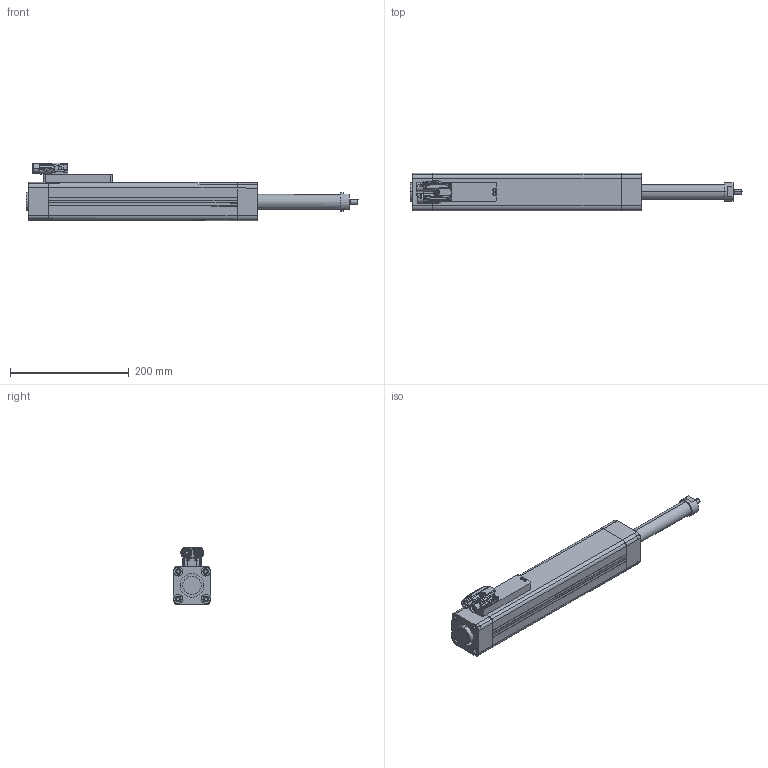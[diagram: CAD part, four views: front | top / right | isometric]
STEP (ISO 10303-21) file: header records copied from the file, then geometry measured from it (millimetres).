
FILE_DESCRIPTION(('STEP AP214'),'1');
FILE_NAME('C:/Users/Autocad/Desktop/ETT050S3CSMN0150C.stp','2014-07-01T07:52:38',(' '),(' '),'Spatial InterOp 3D',' ',' ');
FILE_SCHEMA(('automotive_design'));
Length unit declared in the file: millimetre
Products named in the file (26): ETT050S3CSMN0150C; ETH050 3.1; TAPPO NORMALE; TAPPO; Scatola; Vite M3 lunga; Connettore a y a blocchi; Pin; Vite; Pallino verde; Pallino arancione; Frutto verde; Frutto arancione; Corpo connettore; Vite M3scheda -tappo; cuscinetto; viti parker; riempitivo; Slider FINTO maschio
Assembly tree (35 placements, depth 3):
  ETT050S3CSMN0150C
    ETH050 3.1
    TAPPO NORMALE
    TAPPO
    Scatola
    Vite M3 lunga  x4
    Connettore a y a blocchi
      Pin
      Vite
      Pallino verde
      Pallino arancione
      Frutto verde
      Frutto arancione
      Corpo connettore
    Vite M3scheda -tappo  x4
    cuscinetto  x2
    viti parker
    viti parker
    viti parker
    viti parker
    viti parker
    viti parker
    viti parker
    viti parker
    riempitivo  x4
    Slider FINTO maschio
Bounding box: 560.04 x 63.5 x 97.6 mm (x, y, z)
Volume: 1291987.3 mm3; surface area: 369281.9 mm2
Topology: 27 solids, 1870 shells, 2477 faces, 10216 edges, 9646 vertices
Faces by surface type: cylinder 1023, plane 694, bspline 288, torus 262, cone 95, extrusion 68, sphere 47
Entity records: 161325 total; most frequent: CARTESIAN_POINT 59973, DIRECTION 14438, ORIENTED_EDGE 10199, EDGE_CURVE 9318, VERTEX_POINT 9026, AXIS2_PLACEMENT_3D 5526, STYLED_ITEM 3499, PRESENTATION_STYLE_ASSIGNMENT 3499
